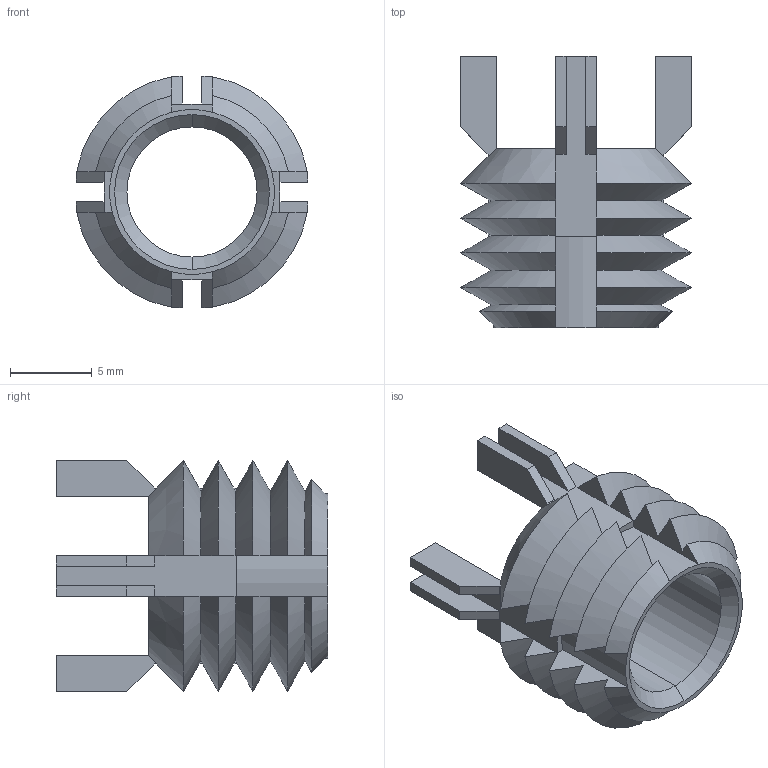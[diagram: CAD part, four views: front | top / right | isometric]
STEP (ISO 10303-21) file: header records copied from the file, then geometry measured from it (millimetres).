
FILE_DESCRIPTION (( 'STEP AP203' ), '1' );
FILE_NAME ('22024.W5350.step', '2020-01-04T21:56:15', ( '' ), ( '' ), 'SwSTEP 2.0', 'SolidWorks 2017', '' );
FILE_SCHEMA (( 'CONFIG_CONTROL_DESIGN' ));
Length unit declared in the file: millimetre
Products named in the file (1): 22024.W5350
Bounding box: 14.14 x 16.57 x 14.14 mm (x, y, z)
Volume: 713.4 mm3; surface area: 1366.3 mm2
Topology: 1 solids, 1 shells, 140 faces, 354 edges, 216 vertices
Faces by surface type: plane 90, cone 44, cylinder 6
Entity records: 4299 total; most frequent: CARTESIAN_POINT 1071, ORIENTED_EDGE 708, DIRECTION 576, EDGE_CURVE 354, VERTEX_POINT 216, AXIS2_PLACEMENT_3D 201, LINE 174, VECTOR 174
